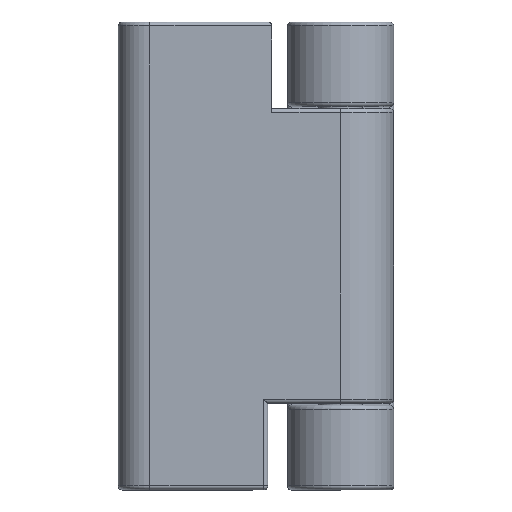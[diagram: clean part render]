
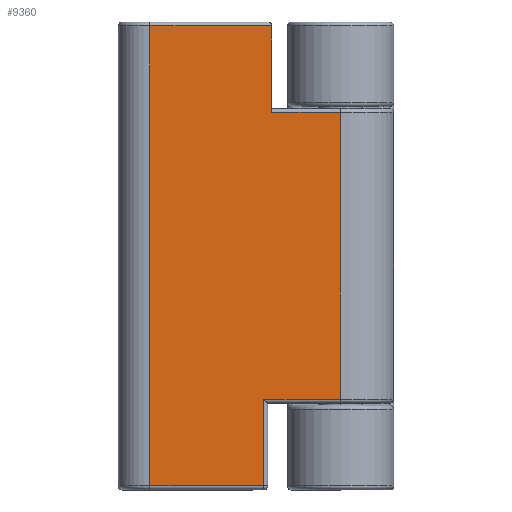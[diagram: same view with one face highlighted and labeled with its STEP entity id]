
A CAD part, top view. The second image highlights one B-rep face of the part: STEP entity #9360.
In plain terms, the highlighted planar face has unit normal (0, 0, 1).
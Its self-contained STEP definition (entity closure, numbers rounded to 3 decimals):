
#68 = ORIENTED_EDGE ( 'NONE', *, *, #7375, .T. ) ;
#110 = VECTOR ( 'NONE', #9713, 1000. ) ;
#263 = CARTESIAN_POINT ( 'NONE',  ( 5., -33., 14.75 ) ) ;
#751 = VERTEX_POINT ( 'NONE', #10213 ) ;
#853 = VERTEX_POINT ( 'NONE', #263 ) ;
#906 = DIRECTION ( 'NONE',  ( 1., 0., 0. ) ) ;
#951 = DIRECTION ( 'NONE',  ( 0., -1., 0. ) ) ;
#1008 = CARTESIAN_POINT ( 'NONE',  ( 5.5, -44., 14.75 ) ) ;
#1014 = CARTESIAN_POINT ( 'NONE',  ( -13.5, -44.5, 14.75 ) ) ;
#1105 = ORIENTED_EDGE ( 'NONE', *, *, #6365, .T. ) ;
#1323 = EDGE_CURVE ( 'NONE', #751, #9559, #8966, .T. ) ;
#1397 = CARTESIAN_POINT ( 'NONE',  ( -9.5, -44., 14.75 ) ) ;
#1538 = LINE ( 'NONE', #6468, #110 ) ;
#1657 = DIRECTION ( 'NONE',  ( -1., 0., 0. ) ) ;
#1817 = FACE_OUTER_BOUND ( 'NONE', #6391, .T. ) ;
#1820 = VERTEX_POINT ( 'NONE', #4074 ) ;
#2497 = DIRECTION ( 'NONE',  ( -1., 0., 0. ) ) ;
#2603 = CARTESIAN_POINT ( 'NONE',  ( -9.5, -44.5, 14.75 ) ) ;
#2660 = DIRECTION ( 'NONE',  ( 1., 0., 0. ) ) ;
#2842 = VECTOR ( 'NONE', #951, 1000. ) ;
#2903 = EDGE_CURVE ( 'NONE', #853, #1820, #3300, .T. ) ;
#3250 = LINE ( 'NONE', #9827, #8483 ) ;
#3252 = VERTEX_POINT ( 'NONE', #7316 ) ;
#3300 = LINE ( 'NONE', #9079, #4874 ) ;
#3340 = DIRECTION ( 'NONE',  ( 0., 1., 0. ) ) ;
#3351 = LINE ( 'NONE', #1008, #3356 ) ;
#3356 = VECTOR ( 'NONE', #6852, 1000. ) ;
#3543 = AXIS2_PLACEMENT_3D ( 'NONE', #1014, #5933, #2660 ) ;
#4008 = VECTOR ( 'NONE', #2497, 1000. ) ;
#4074 = CARTESIAN_POINT ( 'NONE',  ( 14.75, -33., 14.75 ) ) ;
#4086 = VERTEX_POINT ( 'NONE', #1397 ) ;
#4137 = EDGE_CURVE ( 'NONE', #751, #10312, #5293, .T. ) ;
#4803 = ORIENTED_EDGE ( 'NONE', *, *, #4137, .F. ) ;
#4874 = VECTOR ( 'NONE', #906, 1000. ) ;
#5067 = LINE ( 'NONE', #6840, #8841 ) ;
#5293 = LINE ( 'NONE', #9275, #7984 ) ;
#5322 = CARTESIAN_POINT ( 'NONE',  ( 5., -44., 14.75 ) ) ;
#5684 = CARTESIAN_POINT ( 'NONE',  ( -9.5, 14.5, 14.75 ) ) ;
#5772 = ORIENTED_EDGE ( 'NONE', *, *, #9964, .T. ) ;
#5933 = DIRECTION ( 'NONE',  ( 0., 0., 1. ) ) ;
#6365 = EDGE_CURVE ( 'NONE', #1820, #3252, #1538, .T. ) ;
#6391 = EDGE_LOOP ( 'NONE', ( #4803, #8497, #68, #7395, #7726, #6592, #1105, #5772 ) ) ;
#6468 = CARTESIAN_POINT ( 'NONE',  ( 14.75, -44.5, 14.75 ) ) ;
#6571 = CARTESIAN_POINT ( 'NONE',  ( -13.5, 14.5, 14.75 ) ) ;
#6592 = ORIENTED_EDGE ( 'NONE', *, *, #2903, .T. ) ;
#6685 = LINE ( 'NONE', #2603, #2842 ) ;
#6840 = CARTESIAN_POINT ( 'NONE',  ( 5., -33.5, 14.75 ) ) ;
#6845 = DIRECTION ( 'NONE',  ( 0., -1., 0. ) ) ;
#6852 = DIRECTION ( 'NONE',  ( 1., 0., 0. ) ) ;
#6901 = CARTESIAN_POINT ( 'NONE',  ( 6., 3.5, 14.75 ) ) ;
#7316 = CARTESIAN_POINT ( 'NONE',  ( 14.75, 3.5, 14.75 ) ) ;
#7375 = EDGE_CURVE ( 'NONE', #9559, #4086, #6685, .T. ) ;
#7395 = ORIENTED_EDGE ( 'NONE', *, *, #10070, .T. ) ;
#7726 = ORIENTED_EDGE ( 'NONE', *, *, #10510, .T. ) ;
#7984 = VECTOR ( 'NONE', #6845, 1000. ) ;
#8483 = VECTOR ( 'NONE', #1657, 1000. ) ;
#8497 = ORIENTED_EDGE ( 'NONE', *, *, #1323, .T. ) ;
#8650 = VERTEX_POINT ( 'NONE', #5322 ) ;
#8841 = VECTOR ( 'NONE', #3340, 1000. ) ;
#8966 = LINE ( 'NONE', #6571, #4008 ) ;
#9079 = CARTESIAN_POINT ( 'NONE',  ( 14.75, -33., 14.75 ) ) ;
#9275 = CARTESIAN_POINT ( 'NONE',  ( 6., 15., 14.75 ) ) ;
#9360 = ADVANCED_FACE ( 'NONE', ( #1817 ), #10039, .T. ) ;
#9559 = VERTEX_POINT ( 'NONE', #5684 ) ;
#9713 = DIRECTION ( 'NONE',  ( 0., 1., 0. ) ) ;
#9827 = CARTESIAN_POINT ( 'NONE',  ( 6., 3.5, 14.75 ) ) ;
#9964 = EDGE_CURVE ( 'NONE', #3252, #10312, #3250, .T. ) ;
#10039 = PLANE ( 'NONE',  #3543 ) ;
#10070 = EDGE_CURVE ( 'NONE', #4086, #8650, #3351, .T. ) ;
#10213 = CARTESIAN_POINT ( 'NONE',  ( 6., 14.5, 14.75 ) ) ;
#10312 = VERTEX_POINT ( 'NONE', #6901 ) ;
#10510 = EDGE_CURVE ( 'NONE', #8650, #853, #5067, .T. ) ;
